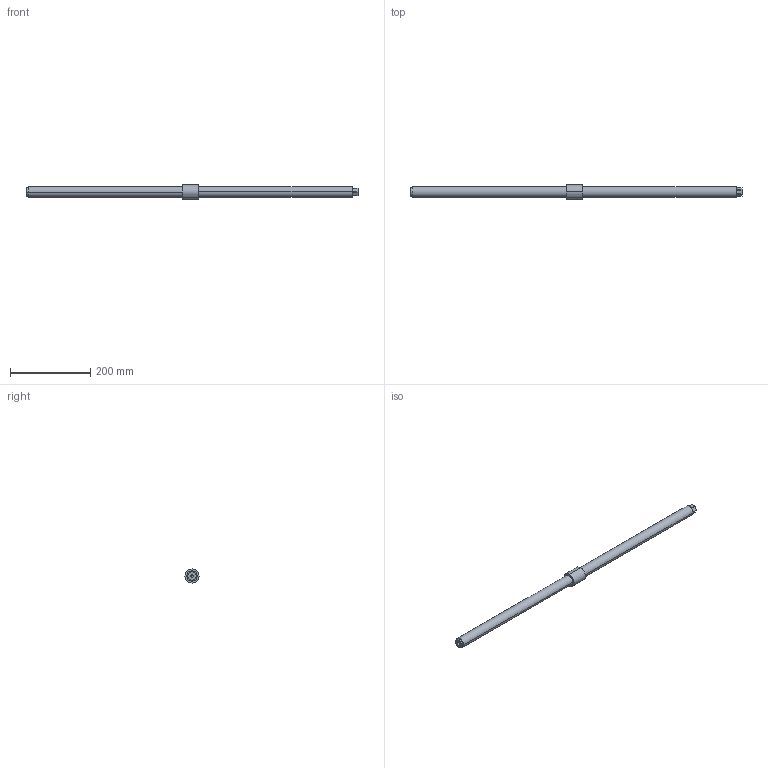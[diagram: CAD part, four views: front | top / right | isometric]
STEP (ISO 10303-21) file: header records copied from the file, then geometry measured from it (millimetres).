
FILE_DESCRIPTION (( 'STEP AP214' ), '1' );
FILE_NAME ('81008.STEP', '2020-10-28T06:52:00', ( '' ), ( '' ), 'SwSTEP 2.0', 'SolidWorks 2019', '' );
FILE_SCHEMA (( 'AUTOMOTIVE_DESIGN' ));
Length unit declared in the file: millimetre
Products named in the file (1): 81008
Bounding box: 825 x 35 x 35 mm (x, y, z)
Volume: 452443.5 mm3; surface area: 78204 mm2
Topology: 3 solids, 3 shells, 53 faces, 125 edges, 80 vertices
Faces by surface type: plane 28, cylinder 21, cone 4
Entity records: 2140 total; most frequent: DIRECTION 271, CARTESIAN_POINT 255, ORIENTED_EDGE 242, EDGE_CURVE 121, AXIS2_PLACEMENT_3D 96, VERTEX_POINT 80, VECTOR 79, LINE 79
